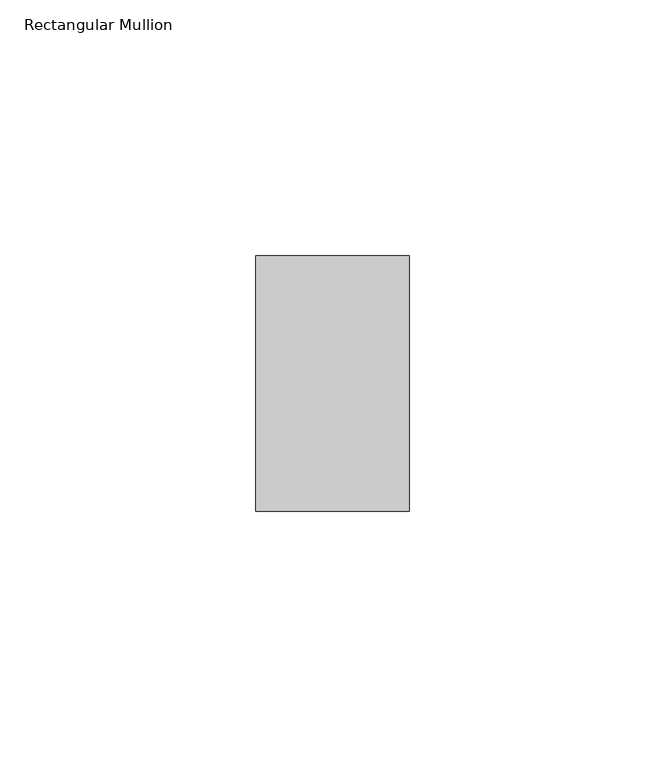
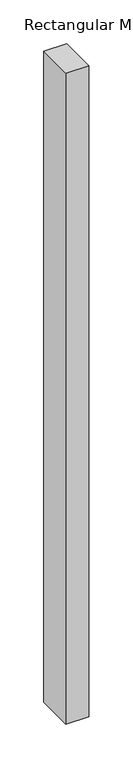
"""IFC4 building model written with IfcOpenShell, lengths in millimetres: member geometry, Rectangular Mullion : ARQ_TV_MULL_50x30mm."""

from ifc_helpers import new_model, si_unit, frame, origin, place, context, project, spatial, polyline, outline, extrude, source, transform, mapped, element, save


def rectangular_mullion_d538363a(model_context):
    return source(origin(), model_context, "Body", "SweptSolid", [
        extrude(outline(polyline([(0.0, 25.0), (0.0, -25.0), (-30.0, -25.0), (-30.0, 25.0), (0.0, 25.0)])), frame((0.0, 0.0, -905.2043467), z_axis=(0.0, 0.0, 1.0), x_axis=(1.0, 0.0, 0.0)), (0.0, 0.0, 1.0), 905.2043467),
    ])


if __name__ == "__main__":
    model = new_model("IFC4")
    model_context = context("Model", 3, world=origin())
    ifc_project = project(units=[si_unit("LENGTHUNIT", "METRE", prefix="MILLI")], contexts=[model_context])
    site = spatial("IfcSite", under=ifc_project)
    building = spatial("IfcBuilding", under=site)
    placement = place(None, origin())
    rectangular_mullion_shape = rectangular_mullion_d538363a(model_context)
    element("IfcMember", 1, ObjectType="Rectangular Mullion : ARQ_TV_MULL_50x30mm", at=placement, inside=building, context=model_context, shape_type="MappedRepresentation", body=[
        mapped(rectangular_mullion_shape, transform((0.0, 0.0, 0.0), x_axis=(1.0, 0.0, 0.0), y_axis=(0.0, 1.0, 0.0), z_axis=(0.0, 0.0, 1.0))),
    ])
    save(model, "model.ifc")
